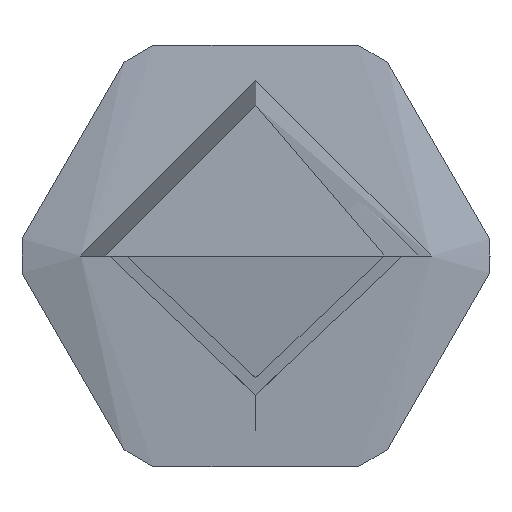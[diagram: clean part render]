
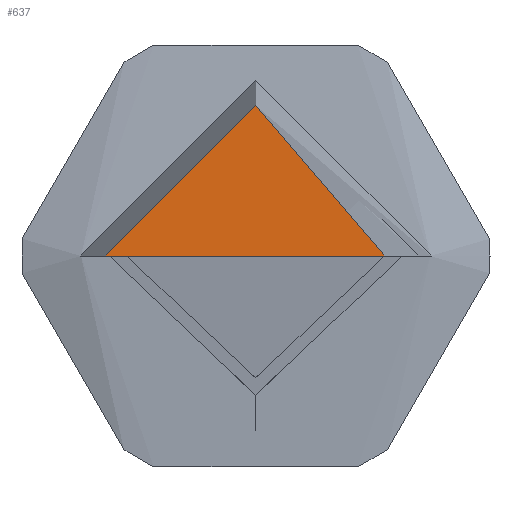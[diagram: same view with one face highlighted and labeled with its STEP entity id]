
A CAD part, left-side view. The second image highlights one B-rep face of the part: STEP entity #637.
In plain terms, the highlighted free-form (B-spline) face has degree [1, 1] with [2, 2] control points.
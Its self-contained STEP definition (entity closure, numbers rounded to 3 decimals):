
#637 = ADVANCED_FACE('',(#638,#660),#682,.T.);
#638 = FACE_BOUND('',#639,.T.);
#639 = EDGE_LOOP('',(#640,#650));
#640 = ORIENTED_EDGE('',*,*,#641,.F.);
#641 = EDGE_CURVE('',#642,#644,#646,.T.);
#642 = VERTEX_POINT('',#643);
#643 = CARTESIAN_POINT('',(0.,12.85,0.));
#644 = VERTEX_POINT('',#645);
#645 = CARTESIAN_POINT('',(0.,0.,12.85));
#646 = ( BOUNDED_CURVE() B_SPLINE_CURVE(2,(#647,#648,#649),
.UNSPECIFIED.,.F.,.F.) B_SPLINE_CURVE_WITH_KNOTS((3,3),(0.,
1.571),.PIECEWISE_BEZIER_KNOTS.) CURVE() 
GEOMETRIC_REPRESENTATION_ITEM() RATIONAL_B_SPLINE_CURVE((1.,
0.707,1.)) REPRESENTATION_ITEM('') );
#647 = CARTESIAN_POINT('',(0.,12.85,0.));
#648 = CARTESIAN_POINT('',(0.,12.85,12.85));
#649 = CARTESIAN_POINT('',(0.,0.,12.85));
#650 = ORIENTED_EDGE('',*,*,#651,.F.);
#651 = EDGE_CURVE('',#644,#642,#652,.T.);
#652 = ( BOUNDED_CURVE() B_SPLINE_CURVE(2,(#653,#654,#655,#656,#657,#658
,#659),.UNSPECIFIED.,.F.,.F.) B_SPLINE_CURVE_WITH_KNOTS((3,2,2,3),(
    1.571,3.142,4.712,6.283),
.UNSPECIFIED.) CURVE() GEOMETRIC_REPRESENTATION_ITEM() 
RATIONAL_B_SPLINE_CURVE((1.,0.707,1.,0.707,1.,
0.707,1.)) REPRESENTATION_ITEM('') );
#653 = CARTESIAN_POINT('',(0.,0.,12.85));
#654 = CARTESIAN_POINT('',(0.,-12.85,12.85));
#655 = CARTESIAN_POINT('',(0.,-12.85,0.));
#656 = CARTESIAN_POINT('',(0.,-12.85,-12.85));
#657 = CARTESIAN_POINT('',(0.,0.,-12.85));
#658 = CARTESIAN_POINT('',(0.,12.85,-12.85));
#659 = CARTESIAN_POINT('',(0.,12.85,0.));
#660 = FACE_BOUND('',#661,.T.);
#661 = EDGE_LOOP('',(#662,#674));
#662 = ORIENTED_EDGE('',*,*,#663,.T.);
#663 = EDGE_CURVE('',#664,#666,#668,.T.);
#664 = VERTEX_POINT('',#665);
#665 = CARTESIAN_POINT('',(0.,11.,0.));
#666 = VERTEX_POINT('',#667);
#667 = CARTESIAN_POINT('',(0.,-11.,0.));
#668 = ( BOUNDED_CURVE() B_SPLINE_CURVE(2,(#669,#670,#671,#672,#673),
.UNSPECIFIED.,.F.,.F.) B_SPLINE_CURVE_WITH_KNOTS((3,2,3),(0.,
1.571,3.142),.UNSPECIFIED.) CURVE() 
GEOMETRIC_REPRESENTATION_ITEM() RATIONAL_B_SPLINE_CURVE((1.,
0.707,1.,0.707,1.)) REPRESENTATION_ITEM('') );
#669 = CARTESIAN_POINT('',(0.,11.,0.));
#670 = CARTESIAN_POINT('',(0.,11.,11.));
#671 = CARTESIAN_POINT('',(0.,0.,11.));
#672 = CARTESIAN_POINT('',(0.,-11.,11.));
#673 = CARTESIAN_POINT('',(0.,-11.,0.));
#674 = ORIENTED_EDGE('',*,*,#675,.T.);
#675 = EDGE_CURVE('',#666,#664,#676,.T.);
#676 = ( BOUNDED_CURVE() B_SPLINE_CURVE(2,(#677,#678,#679,#680,#681),
.UNSPECIFIED.,.F.,.F.) B_SPLINE_CURVE_WITH_KNOTS((3,2,3),(3.142,
4.712,6.283),.PIECEWISE_BEZIER_KNOTS.) CURVE() 
GEOMETRIC_REPRESENTATION_ITEM() RATIONAL_B_SPLINE_CURVE((1.,
0.707,1.,0.707,1.)) REPRESENTATION_ITEM('') );
#677 = CARTESIAN_POINT('',(0.,-11.,0.));
#678 = CARTESIAN_POINT('',(0.,-11.,-11.));
#679 = CARTESIAN_POINT('',(0.,0.,-11.));
#680 = CARTESIAN_POINT('',(0.,11.,-11.));
#681 = CARTESIAN_POINT('',(0.,11.,0.));
#682 = B_SPLINE_SURFACE_WITH_KNOTS('',1,1,(
    (#683,#684)
    ,(#685,#686
    )),.UNSPECIFIED.,.F.,.F.,.F.,(2,2),(2,2),(-1.286,1.286),(-2.479,
    0.094),.PIECEWISE_BEZIER_KNOTS.);
#683 = CARTESIAN_POINT('',(0.,-12.86,-12.86));
#684 = CARTESIAN_POINT('',(0.,12.86,-12.86));
#685 = CARTESIAN_POINT('',(0.,-12.86,12.86));
#686 = CARTESIAN_POINT('',(0.,12.86,12.86));
